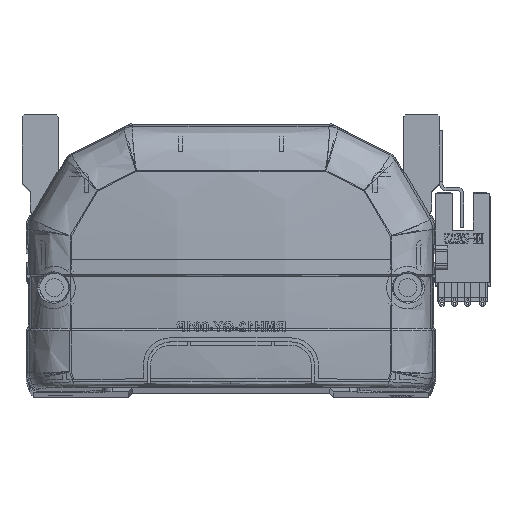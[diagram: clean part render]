
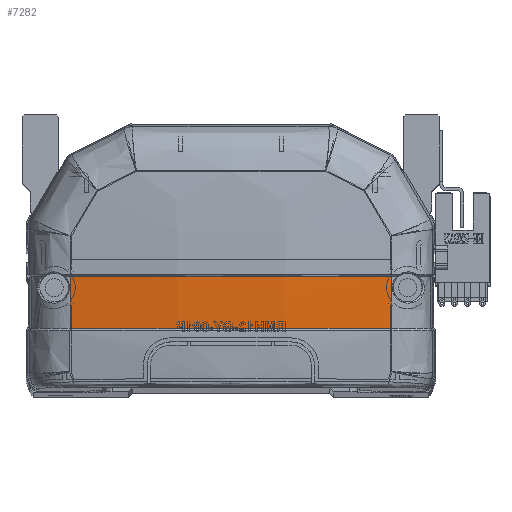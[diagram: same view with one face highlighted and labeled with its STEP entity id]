
A CAD part, top view. The second image highlights one B-rep face of the part: STEP entity #7282.
In plain terms, the highlighted free-form (B-spline) face has degree [3, 3] with [4, 4] control points.
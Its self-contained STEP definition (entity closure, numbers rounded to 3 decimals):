
#112 = CARTESIAN_POINT ( 'NONE',  ( -39.966, 24.412, -6.306 ) ) ;
#731 = CARTESIAN_POINT ( 'NONE',  ( -40.461, 24.47, -6.231 ) ) ;
#831 = CARTESIAN_POINT ( 'NONE',  ( 39.963, 28.706, -6.372 ) ) ;
#920 = CARTESIAN_POINT ( 'NONE',  ( -13.598, 15.499, -10.032 ) ) ;
#3368 = CARTESIAN_POINT ( 'NONE',  ( 39.963, 28.706, -6.372 ) ) ;
#4486 = CARTESIAN_POINT ( 'NONE',  ( -39.985, 15.83, -5.879 ) ) ;
#4816 = CARTESIAN_POINT ( 'NONE',  ( 40.461, 20.111, -6.066 ) ) ;
#5186 = CARTESIAN_POINT ( 'NONE',  ( -40.461, 28.832, -6.296 ) ) ;
#5461 = EDGE_CURVE ( 'NONE', #46471, #22767, #51767, .T. ) ;
#5991 = ORIENTED_EDGE ( 'NONE', *, *, #33348, .F. ) ;
#6469 = VERTEX_POINT ( 'NONE', #31381 ) ;
#7282 = ADVANCED_FACE ( 'NONE', ( #23145 ), #9943, .F. ) ;
#7849 = CARTESIAN_POINT ( 'NONE',  ( 26.749, 28.706, -8.432 ) ) ;
#9943 =( BOUNDED_SURFACE ( )  B_SPLINE_SURFACE ( 3, 3, ( 
 ( #45371, #4816, #28030, #13944 ),
 ( #18991, #27844, #40876, #50305 ),
 ( #920, #49917, #28218, #46152 ),
 ( #32545, #41069, #731, #5186 ) ),
 .UNSPECIFIED., .F., .F., .F. ) 
 B_SPLINE_SURFACE_WITH_KNOTS ( ( 4, 4 ),
 ( 4, 4 ),
 ( 0., 1. ),
 ( 0., 1. ),
 .UNSPECIFIED. ) 
 GEOMETRIC_REPRESENTATION_ITEM ( )  RATIONAL_B_SPLINE_SURFACE ( (
 ( 1., 1., 1., 1.),
 ( 0.992, 0.992, 0.992, 0.992),
 ( 0.992, 0.992, 0.992, 0.992),
 ( 1., 1., 1., 1.) ) ) 
 REPRESENTATION_ITEM ( '' )  SURFACE ( )  );
#10212 = CARTESIAN_POINT ( 'NONE',  ( -33.365, 15.83, -6.848 ) ) ;
#12207 = VERTEX_POINT ( 'NONE', #4486 ) ;
#13681 = CARTESIAN_POINT ( 'NONE',  ( -39.985, 15.83, -5.879 ) ) ;
#13807 = B_SPLINE_CURVE_WITH_KNOTS ( 'NONE', 3,
 ( #26637, #112, #54366, #13681 ),
 .UNSPECIFIED., .F., .F.,
 ( 4, 4 ),
 ( 0., 1. ),
 .UNSPECIFIED. ) ;
#13944 = CARTESIAN_POINT ( 'NONE',  ( 40.461, 28.832, -6.296 ) ) ;
#14401 = CARTESIAN_POINT ( 'NONE',  ( -39.985, 15.83, -5.879 ) ) ;
#14807 = CARTESIAN_POINT ( 'NONE',  ( 39.985, 15.83, -5.879 ) ) ;
#18879 = CARTESIAN_POINT ( 'NONE',  ( -6.692, 15.83, -8.984 ) ) ;
#18991 = CARTESIAN_POINT ( 'NONE',  ( 13.598, 15.499, -10.032 ) ) ;
#19075 = CARTESIAN_POINT ( 'NONE',  ( -13.384, 15.83, -8.724 ) ) ;
#19186 = EDGE_LOOP ( 'NONE', ( #24451, #53661, #46708, #5991 ) ) ;
#22767 = VERTEX_POINT ( 'NONE', #58262 ) ;
#22927 = EDGE_CURVE ( 'NONE', #6469, #22767, #25249, .T. ) ;
#23145 = FACE_OUTER_BOUND ( 'NONE', #19186, .T. ) ;
#24022 = CARTESIAN_POINT ( 'NONE',  ( 39.966, 24.413, -6.306 ) ) ;
#24451 = ORIENTED_EDGE ( 'NONE', *, *, #22927, .T. ) ;
#25249 = B_SPLINE_CURVE_WITH_KNOTS ( 'NONE', 3,
 ( #14807, #50985, #24022, #831 ),
 .UNSPECIFIED., .F., .F.,
 ( 4, 4 ),
 ( 0., 1. ),
 .UNSPECIFIED. ) ;
#25614 = CARTESIAN_POINT ( 'NONE',  ( -26.748, 28.706, -8.432 ) ) ;
#26637 = CARTESIAN_POINT ( 'NONE',  ( -39.963, 28.706, -6.372 ) ) ;
#26906 = B_SPLINE_CURVE_WITH_KNOTS ( 'NONE', 3,
 ( #41343, #36809, #50187, #18879, #19075, #55286, #37399, #10212, #37218, #14401 ),
 .UNSPECIFIED., .F., .F.,
 ( 4, 2, 2, 2, 4 ),
 ( 0., 0.04, 0.06, 0.07, 0.08 ),
 .UNSPECIFIED. ) ;
#27844 = CARTESIAN_POINT ( 'NONE',  ( 13.598, 19.918, -10.302 ) ) ;
#28030 = CARTESIAN_POINT ( 'NONE',  ( 40.461, 24.47, -6.231 ) ) ;
#28218 = CARTESIAN_POINT ( 'NONE',  ( -13.598, 24.342, -10.47 ) ) ;
#31381 = CARTESIAN_POINT ( 'NONE',  ( 39.985, 15.83, -5.879 ) ) ;
#32545 = CARTESIAN_POINT ( 'NONE',  ( -40.461, 15.757, -5.8 ) ) ;
#33348 = EDGE_CURVE ( 'NONE', #6469, #12207, #26906, .T. ) ;
#36809 = CARTESIAN_POINT ( 'NONE',  ( 26.761, 15.83, -7.945 ) ) ;
#37064 = EDGE_CURVE ( 'NONE', #46471, #12207, #13807, .T. ) ;
#37218 = CARTESIAN_POINT ( 'NONE',  ( -36.679, 15.83, -6.395 ) ) ;
#37399 = CARTESIAN_POINT ( 'NONE',  ( -26.721, 15.83, -7.624 ) ) ;
#38351 = CARTESIAN_POINT ( 'NONE',  ( -39.963, 28.706, -6.372 ) ) ;
#40876 = CARTESIAN_POINT ( 'NONE',  ( 13.598, 24.342, -10.47 ) ) ;
#41069 = CARTESIAN_POINT ( 'NONE',  ( -40.461, 20.111, -6.066 ) ) ;
#41343 = CARTESIAN_POINT ( 'NONE',  ( 39.985, 15.83, -5.879 ) ) ;
#45371 = CARTESIAN_POINT ( 'NONE',  ( 40.461, 15.757, -5.8 ) ) ;
#46152 = CARTESIAN_POINT ( 'NONE',  ( -13.598, 28.769, -10.535 ) ) ;
#46471 = VERTEX_POINT ( 'NONE', #38351 ) ;
#46708 = ORIENTED_EDGE ( 'NONE', *, *, #37064, .T. ) ;
#48821 = CARTESIAN_POINT ( 'NONE',  ( -39.963, 28.706, -6.372 ) ) ;
#49917 = CARTESIAN_POINT ( 'NONE',  ( -13.598, 19.918, -10.302 ) ) ;
#50187 = CARTESIAN_POINT ( 'NONE',  ( 13.38, 15.83, -8.984 ) ) ;
#50305 = CARTESIAN_POINT ( 'NONE',  ( 13.598, 28.769, -10.535 ) ) ;
#50985 = CARTESIAN_POINT ( 'NONE',  ( 39.973, 20.12, -6.142 ) ) ;
#51767 = B_SPLINE_CURVE_WITH_KNOTS ( 'NONE', 3,
 ( #48821, #25614, #52369, #52951, #7849, #3368 ),
 .UNSPECIFIED., .F., .F.,
 ( 4, 2, 4 ),
 ( 0., 0.5, 1. ),
 .UNSPECIFIED. ) ;
#52369 = CARTESIAN_POINT ( 'NONE',  ( -13.373, 28.707, -9.468 ) ) ;
#52951 = CARTESIAN_POINT ( 'NONE',  ( 13.375, 28.707, -9.468 ) ) ;
#53661 = ORIENTED_EDGE ( 'NONE', *, *, #5461, .F. ) ;
#54366 = CARTESIAN_POINT ( 'NONE',  ( -39.973, 20.118, -6.142 ) ) ;
#55286 = CARTESIAN_POINT ( 'NONE',  ( -23.389, 15.83, -7.947 ) ) ;
#58262 = CARTESIAN_POINT ( 'NONE',  ( 39.963, 28.706, -6.372 ) ) ;
